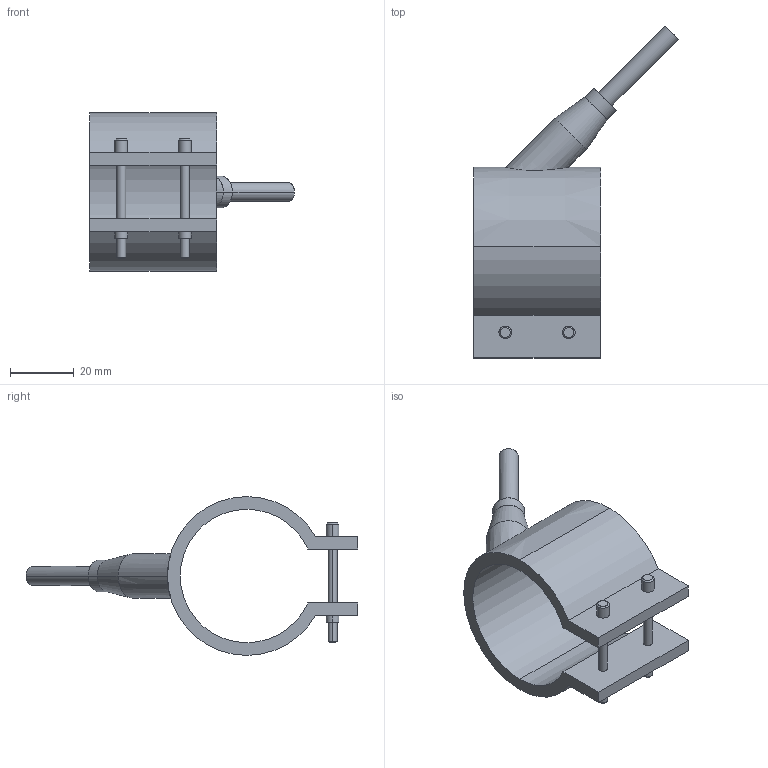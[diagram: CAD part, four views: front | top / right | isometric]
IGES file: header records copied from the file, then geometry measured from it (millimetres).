
Start section: START RECORD GO HERE.
Global section: file name: 29042040.igs; native system: DASSAULT SYSTEMES CATIA V5 R20 - www.3ds.com; preprocessor: CATIA Version 5 Release 20 ; author: Utente; organization: NB04-ASUS; date: 20210327.103750; units: millimetre
Bounding box: 64.55 x 104.55 x 50 mm (x, y, z)
Surface area: 15883.9 mm2 (no closed solid volume)
Topology: 0 solids, 0 shells, 54 faces, 246 edges, 246 vertices
Faces by surface type: revolution 38, plane 16
